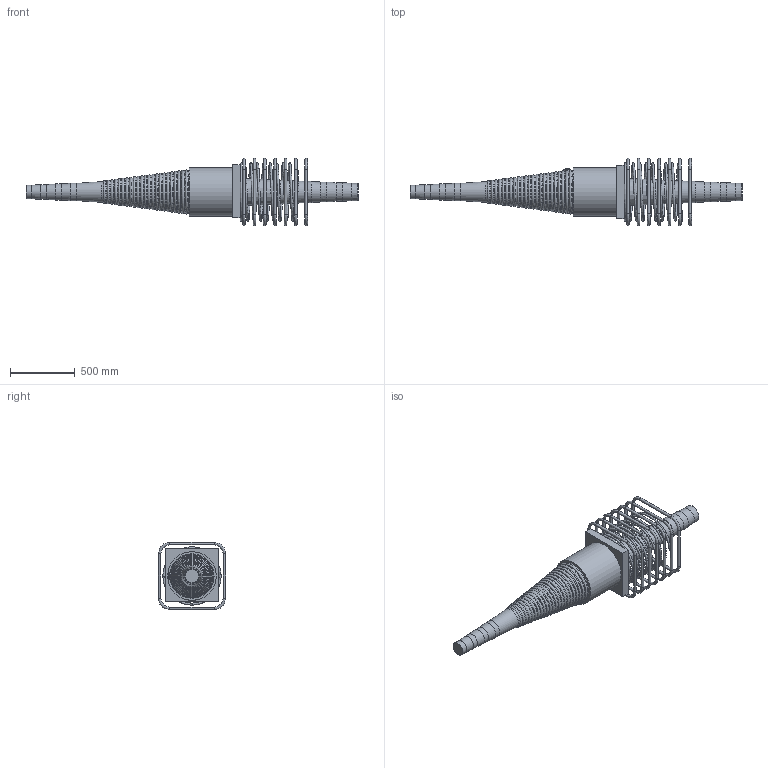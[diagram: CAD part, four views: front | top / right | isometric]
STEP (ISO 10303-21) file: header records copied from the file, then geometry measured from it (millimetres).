
FILE_DESCRIPTION(/* description */ (''),/* implementation_level */ '2;1');
FILE_NAME(/* name */ 'Z:\04 Publications\05 Give-out\BBR\6_3D_Models\BBR VT CONA CMI\BBR VT CONA CMI SP\02706\BBR VT CONA CMI SP 2706_Coupler H Assembly_CS-34,28.stp',/* time_stamp */ '2017-05-09T10:01:15+02:00',/* author */ ('IP'),/* organization */ (''),/* preprocessor_version */ 'ST-DEVELOPER v16.1',/* originating_system */ 'Autodesk Inventor 2016',/* authorisation */ '');
FILE_SCHEMA (('AUTOMOTIVE_DESIGN { 1 0 10303 214 3 1 1 }'));
Products named in the file (1): BBR VT CONA CMI SP 2706_Coupler H Assembly_CS-34,28
Bounding box: 2564.52 x 520 x 520 mm (x, y, z)
Volume: 117553085.2 mm3; surface area: 3523003 mm2
Topology: 9 solids, 9 shells, 902 faces, 2311 edges, 1479 vertices
Faces by surface type: bspline 395, plane 259, torus 112, cylinder 98, cone 30, sphere 8
Full cylindrical faces by diameter (mm): 20 x28, 34.089 x1, 57.089 x1, 104 x1, 114 x1, 124 x1, 134 x1, 375 x1
Entity records: 40340 total; most frequent: CARTESIAN_POINT 21239, ORIENTED_EDGE 4276, DIRECTION 2798, EDGE_CURVE 2135, VERTEX_POINT 1473, EDGE_LOOP 1143, AXIS2_PLACEMENT_3D 947, LINE 904
